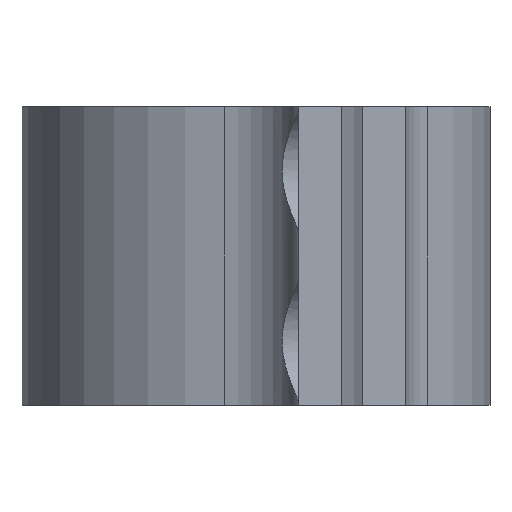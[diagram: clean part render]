
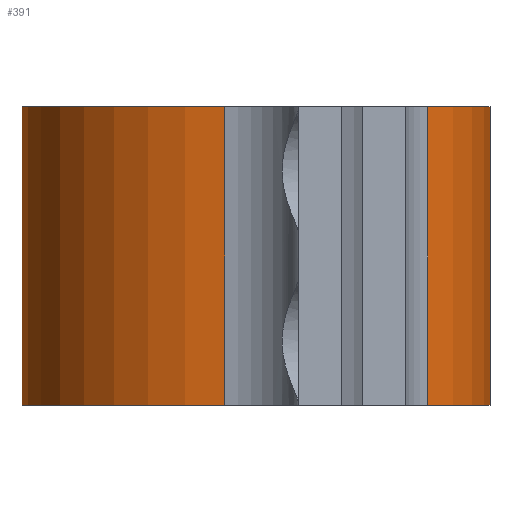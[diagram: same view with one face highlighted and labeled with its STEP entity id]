
A CAD part, left-side view. The second image highlights one B-rep face of the part: STEP entity #391.
In plain terms, the highlighted cylindrical face has radius 11 mm (diameter 22 mm), a partial arc.
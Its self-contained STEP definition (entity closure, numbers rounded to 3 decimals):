
#38=LINE('',#689,#68);
#40=LINE('',#695,#70);
#68=VECTOR('',#530,10.);
#70=VECTOR('',#536,10.);
#99=FACE_OUTER_BOUND('',#121,.T.);
#121=EDGE_LOOP('',(#303,#304,#305,#306));
#150=CIRCLE('',#439,11.);
#155=CIRCLE('',#448,11.);
#184=VERTEX_POINT('',#668);
#185=VERTEX_POINT('',#670);
#191=VERTEX_POINT('',#688);
#193=VERTEX_POINT('',#694);
#226=EDGE_CURVE('',#184,#185,#150,.T.);
#235=EDGE_CURVE('',#185,#191,#38,.T.);
#238=EDGE_CURVE('',#184,#193,#40,.T.);
#239=EDGE_CURVE('',#191,#193,#155,.T.);
#303=ORIENTED_EDGE('',*,*,#235,.F.);
#304=ORIENTED_EDGE('',*,*,#226,.F.);
#305=ORIENTED_EDGE('',*,*,#238,.T.);
#306=ORIENTED_EDGE('',*,*,#239,.F.);
#377=CYLINDRICAL_SURFACE('',#447,11.);
#391=ADVANCED_FACE('',(#99),#377,.T.);
#439=AXIS2_PLACEMENT_3D('',#671,#511,#512);
#447=AXIS2_PLACEMENT_3D('',#693,#534,#535);
#448=AXIS2_PLACEMENT_3D('',#696,#537,#538);
#511=DIRECTION('center_axis',(0.,0.,-1.));
#512=DIRECTION('ref_axis',(-0.771,-0.636,0.));
#530=DIRECTION('',(0.,0.,1.));
#534=DIRECTION('center_axis',(0.,0.,1.));
#535=DIRECTION('ref_axis',(0.941,0.338,0.));
#536=DIRECTION('',(0.,0.,1.));
#537=DIRECTION('center_axis',(0.,0.,1.));
#538=DIRECTION('ref_axis',(-0.771,-0.636,0.));
#668=CARTESIAN_POINT('',(-10.902,1.467,-7.));
#670=CARTESIAN_POINT('',(-7.479,-8.067,-7.));
#671=CARTESIAN_POINT('Origin',(0.,0.,-7.));
#688=CARTESIAN_POINT('',(-7.479,-8.067,7.));
#689=CARTESIAN_POINT('',(-7.479,-8.067,0.));
#693=CARTESIAN_POINT('Origin',(0.,0.,0.));
#694=CARTESIAN_POINT('',(-10.902,1.467,7.));
#695=CARTESIAN_POINT('',(-10.902,1.467,0.));
#696=CARTESIAN_POINT('Origin',(0.,0.,7.));
